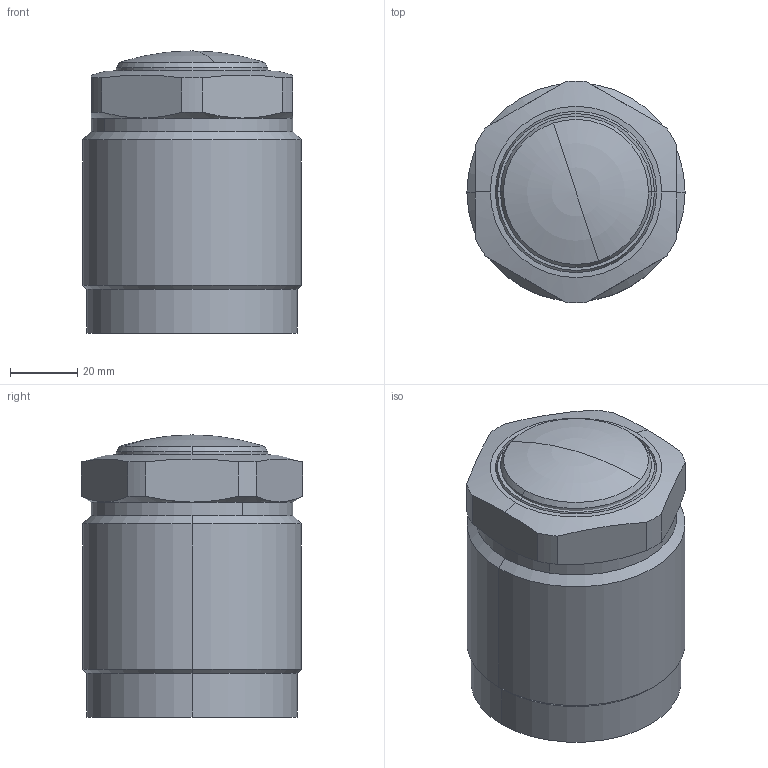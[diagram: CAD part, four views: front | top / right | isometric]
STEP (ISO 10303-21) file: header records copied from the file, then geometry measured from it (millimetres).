
FILE_DESCRIPTION((' '),'2;1');
FILE_NAME( 'TGP65-RM.x_t.stp', '2025-02-10T16:03:59', (' '), ('--- Datakit www.datakit.com---'), ' Datakit CrossCadWare V2024.1 Dec 21 2023', 'Mastercam 2025', ' ');
FILE_SCHEMA(('AUTOMOTIVE_DESIGN { 1 0 10303 214 1 1 1 1 }'));
Length unit declared in the file: millimetre
Products named in the file (1): TGP65-RM
Bounding box: 65 x 65.97 x 84 mm (x, y, z)
Volume: 289655.3 mm3; surface area: 30671.6 mm2
Topology: 2 solids, 2 shells, 66 faces, 166 edges, 103 vertices
Faces by surface type: cone 24, cylinder 24, plane 12, torus 6
Entity records: 2084 total; most frequent: CARTESIAN_POINT 470, DIRECTION 360, ORIENTED_EDGE 320, EDGE_CURVE 160, AXIS2_PLACEMENT_3D 153, VERTEX_POINT 103, CIRCLE 86, EDGE_LOOP 71
